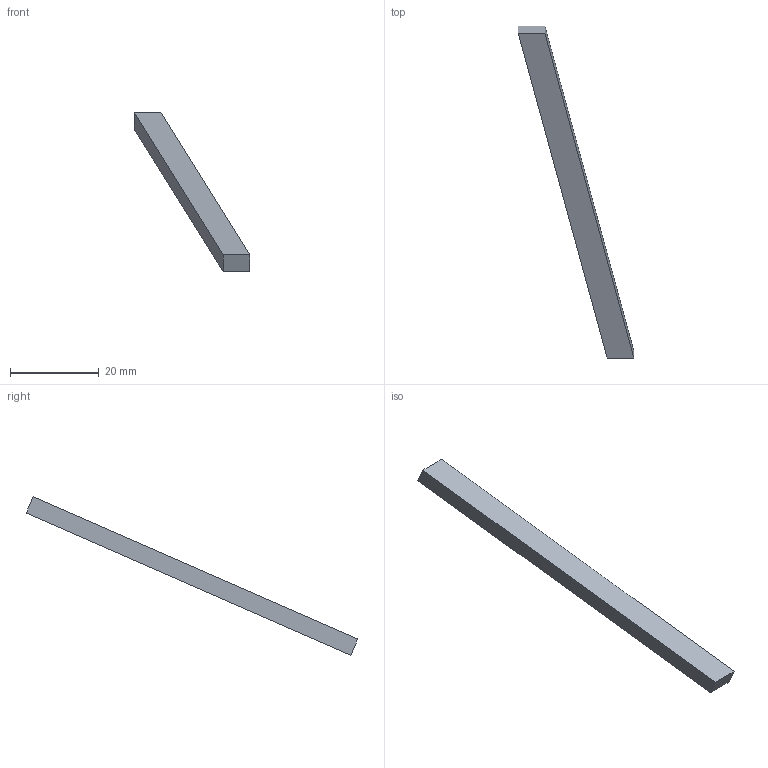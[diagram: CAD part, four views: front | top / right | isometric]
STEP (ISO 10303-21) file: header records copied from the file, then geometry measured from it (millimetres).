
FILE_DESCRIPTION(('Open CASCADE Model'),'2;1');
FILE_NAME('Open CASCADE Shape Model','2026-10-04T01:02:27',('Author'),( 'Open CASCADE'),'Open CASCADE STEP processor 8.0','Open CASCADE 8.0' ,'Unknown');
FILE_SCHEMA(('AUTOMOTIVE_DESIGN { 1 0 10303 214 1 1 1 1 }'));
Length unit declared in the file: millimetre
Products named in the file (1): Open CASCADE STEP translator 8.0 83
Bounding box: 26 x 74.69 x 35.66 mm (x, y, z)
Volume: 1914.8 mm3; surface area: 1663.4 mm2
Topology: 1 solids, 1 shells, 6 faces, 12 edges, 8 vertices
Faces by surface type: plane 6
Entity records: 322 total; most frequent: CARTESIAN_POINT 51, DIRECTION 50, LINE 36, VECTOR 36, ORIENTED_EDGE 24, PCURVE 24, DEFINITIONAL_REPRESENTATION 24, EDGE_CURVE 12
